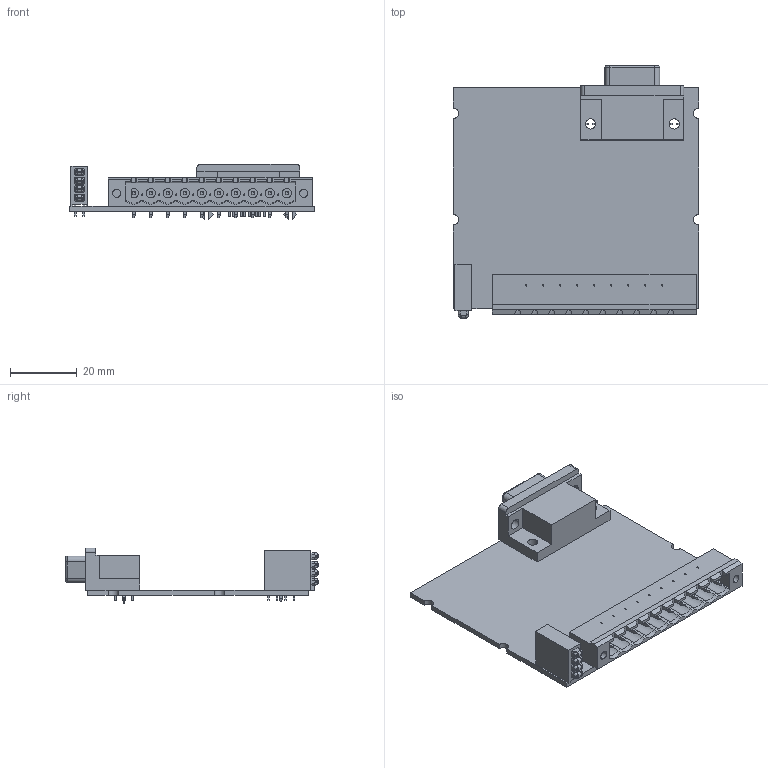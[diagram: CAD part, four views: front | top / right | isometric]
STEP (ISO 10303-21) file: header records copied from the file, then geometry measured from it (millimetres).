
FILE_DESCRIPTION((''),'2;1');
FILE_NAME('CD_10POS_SCREW_TERM_4LEDS','2010-02-23T',('scarrasc'),(''),'PRO/ENGINEER BY PARAMETRIC TECHNOLOGY CORPORATION, 2006080','PRO/ENGINEER BY PARAMETRIC TECHNOLOGY CORPORATION, 2006080','');
FILE_SCHEMA(('CONFIG_CONTROL_DESIGN'));
Length unit declared in the file: inch
Products named in the file (1): CD_10POS_SCREW_TERM_4LEDS
Bounding box: 73.38 x 75.51 x 16.61 mm (x, y, z)
Volume: 16569.4 mm3; surface area: 15874.8 mm2
Topology: 5 solids, 7 shells, 941 faces, 2238 edges, 1434 vertices
Faces by surface type: plane 681, cylinder 174, cone 40, sphere 26, bspline 16, torus 4
Entity records: 27844 total; most frequent: CARTESIAN_POINT 5809, ORIENTED_EDGE 4476, DIRECTION 4432, EDGE_CURVE 2238, VECTOR 1758, LINE 1758, VERTEX_POINT 1434, AXIS2_PLACEMENT_3D 1337
